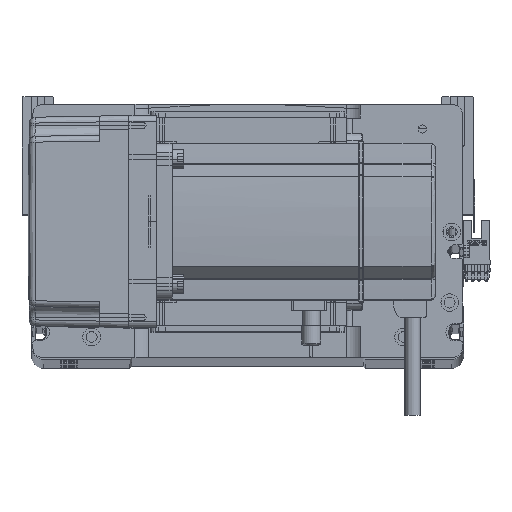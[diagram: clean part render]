
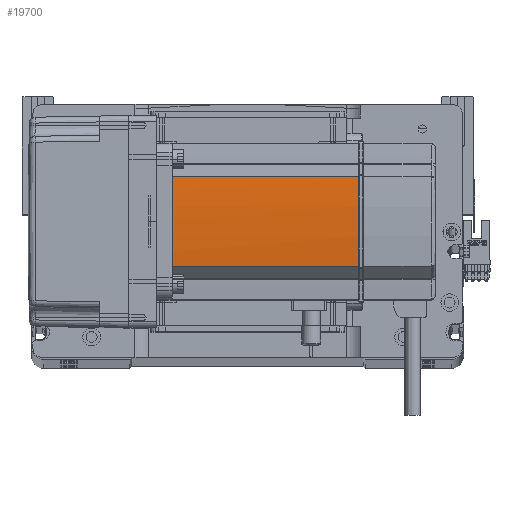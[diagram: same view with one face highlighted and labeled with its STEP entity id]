
A CAD part, top view. The second image highlights one B-rep face of the part: STEP entity #19700.
In plain terms, the highlighted cylindrical face has radius 270 mm (diameter 540 mm), a partial arc.
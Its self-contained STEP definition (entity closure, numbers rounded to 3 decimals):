
#1819 = EDGE_CURVE ( 'NONE', #37151, #2934, #17663, .T. ) ;
#2508 = DIRECTION ( 'NONE',  ( 0., 0., -1. ) ) ;
#2934 = VERTEX_POINT ( 'NONE', #15748 ) ;
#3714 = VERTEX_POINT ( 'NONE', #30564 ) ;
#4261 = CIRCLE ( 'NONE', #40466, 270. ) ;
#5238 = EDGE_LOOP ( 'NONE', ( #52208, #24395, #43356, #48940, #5783, #14100 ) ) ;
#5783 = ORIENTED_EDGE ( 'NONE', *, *, #8644, .F. ) ;
#6484 = CARTESIAN_POINT ( 'NONE',  ( 39.042, 22.724, 39. ) ) ;
#7146 = CIRCLE ( 'NONE', #48829, 270. ) ;
#8644 = EDGE_CURVE ( 'NONE', #17155, #3714, #37409, .T. ) ;
#14100 = ORIENTED_EDGE ( 'NONE', *, *, #19148, .T. ) ;
#14176 = CARTESIAN_POINT ( 'NONE',  ( 40., 0.042, 134. ) ) ;
#14232 = CARTESIAN_POINT ( 'NONE',  ( 39.042, -22.724, 134. ) ) ;
#14830 = DIRECTION ( 'NONE',  ( 0., 0., -1. ) ) ;
#15748 = CARTESIAN_POINT ( 'NONE',  ( 39.042, -22.724, 39. ) ) ;
#17155 = VERTEX_POINT ( 'NONE', #35357 ) ;
#17605 = CARTESIAN_POINT ( 'NONE',  ( 39.042, 22.724, 134. ) ) ;
#17663 = CIRCLE ( 'NONE', #21626, 270. ) ;
#18167 = FACE_OUTER_BOUND ( 'NONE', #5238, .T. ) ;
#19148 = EDGE_CURVE ( 'NONE', #17155, #34665, #7146, .T. ) ;
#19700 = ADVANCED_FACE ( 'NONE', ( #18167 ), #53572, .T. ) ;
#19903 = LINE ( 'NONE', #35336, #35151 ) ;
#21626 = AXIS2_PLACEMENT_3D ( 'NONE', #56178, #25324, #39079 ) ;
#23863 = CARTESIAN_POINT ( 'NONE',  ( -230., 0., 134. ) ) ;
#24150 = EDGE_CURVE ( 'NONE', #37151, #25736, #19903, .T. ) ;
#24395 = ORIENTED_EDGE ( 'NONE', *, *, #1819, .F. ) ;
#25324 = DIRECTION ( 'NONE',  ( 0., 0., -1. ) ) ;
#25387 = VECTOR ( 'NONE', #2508, 1000. ) ;
#25673 = DIRECTION ( 'NONE',  ( 0., 0., -1. ) ) ;
#25736 = VERTEX_POINT ( 'NONE', #17605 ) ;
#28312 = CARTESIAN_POINT ( 'NONE',  ( 40., -0.127, 134. ) ) ;
#30564 = CARTESIAN_POINT ( 'NONE',  ( 40., 0.127, 134. ) ) ;
#32184 = CARTESIAN_POINT ( 'NONE',  ( 40., 0.127, 134. ) ) ;
#32565 = CARTESIAN_POINT ( 'NONE',  ( 40., -0.042, 134. ) ) ;
#33087 = CARTESIAN_POINT ( 'NONE',  ( -230., 0., 134. ) ) ;
#34665 = VERTEX_POINT ( 'NONE', #14232 ) ;
#35151 = VECTOR ( 'NONE', #40565, 1000. ) ;
#35336 = CARTESIAN_POINT ( 'NONE',  ( 39.042, 22.724, 58. ) ) ;
#35357 = CARTESIAN_POINT ( 'NONE',  ( 40., -0.127, 134. ) ) ;
#36869 = DIRECTION ( 'NONE',  ( 0., 0., -1. ) ) ;
#37151 = VERTEX_POINT ( 'NONE', #6484 ) ;
#37409 = B_SPLINE_CURVE_WITH_KNOTS ( 'NONE', 3,
 ( #28312, #32565, #14176, #32184 ),
 .UNSPECIFIED., .F., .F.,
 ( 4, 4 ),
 ( 0., 1. ),
 .UNSPECIFIED. ) ;
#39079 = DIRECTION ( 'NONE',  ( -1., 0., 0. ) ) ;
#39623 = EDGE_CURVE ( 'NONE', #25736, #3714, #4261, .T. ) ;
#40466 = AXIS2_PLACEMENT_3D ( 'NONE', #33087, #14830, #45855 ) ;
#40565 = DIRECTION ( 'NONE',  ( 0., 0., 1. ) ) ;
#43296 = AXIS2_PLACEMENT_3D ( 'NONE', #47215, #25673, #56335 ) ;
#43356 = ORIENTED_EDGE ( 'NONE', *, *, #24150, .T. ) ;
#45855 = DIRECTION ( 'NONE',  ( -1., 0., 0. ) ) ;
#47215 = CARTESIAN_POINT ( 'NONE',  ( -230., 0., 58. ) ) ;
#48829 = AXIS2_PLACEMENT_3D ( 'NONE', #23863, #36869, #54369 ) ;
#48940 = ORIENTED_EDGE ( 'NONE', *, *, #39623, .T. ) ;
#49043 = EDGE_CURVE ( 'NONE', #34665, #2934, #56620, .T. ) ;
#52208 = ORIENTED_EDGE ( 'NONE', *, *, #49043, .T. ) ;
#53572 = CYLINDRICAL_SURFACE ( 'NONE', #43296, 270. ) ;
#54369 = DIRECTION ( 'NONE',  ( -1., 0., 0. ) ) ;
#55265 = CARTESIAN_POINT ( 'NONE',  ( 39.042, -22.724, 58. ) ) ;
#56178 = CARTESIAN_POINT ( 'NONE',  ( -230., 0., 39. ) ) ;
#56335 = DIRECTION ( 'NONE',  ( -1., 0., 0. ) ) ;
#56620 = LINE ( 'NONE', #55265, #25387 ) ;
